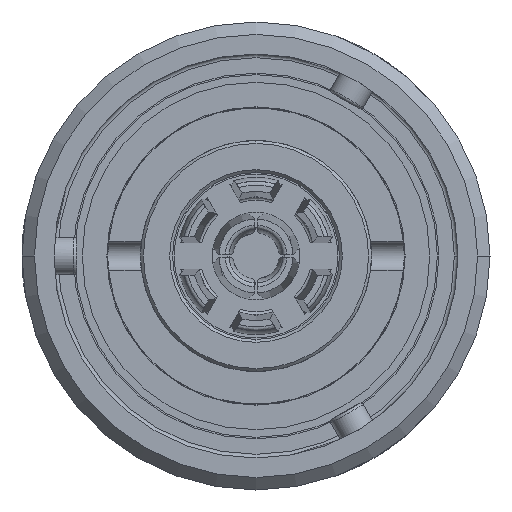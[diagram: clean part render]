
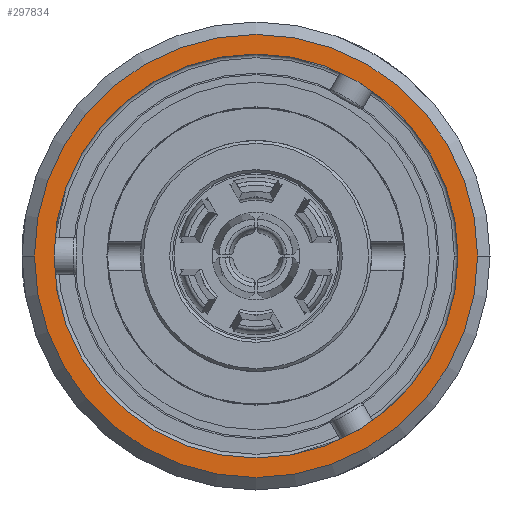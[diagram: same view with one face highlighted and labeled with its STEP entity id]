
A CAD part, left-side view. The second image highlights one B-rep face of the part: STEP entity #297834.
In plain terms, the highlighted planar face has unit normal (-1, 0, 0).
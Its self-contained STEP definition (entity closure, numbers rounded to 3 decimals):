
#85639=CARTESIAN_POINT('',(3.2,0.,0.));
#85640=DIRECTION('',(-1.,0.,0.));
#85641=DIRECTION('',(0.,1.,0.));
#85642=AXIS2_PLACEMENT_3D('',#85639,#85640,#85641);
#85652=CARTESIAN_POINT('',(3.2,0.,0.));
#85653=DIRECTION('',(1.,0.,0.));
#85654=DIRECTION('',(0.,1.,0.));
#85655=AXIS2_PLACEMENT_3D('',#85652,#85653,#85654);
#85657=CARTESIAN_POINT('',(3.2,0.,0.));
#85658=DIRECTION('',(1.,0.,0.));
#85659=DIRECTION('',(0.,1.,0.));
#85660=AXIS2_PLACEMENT_3D('',#85657,#85658,#85659);
#85662=CARTESIAN_POINT('',(3.2,0.,0.));
#85663=DIRECTION('',(-1.,0.,0.));
#85664=DIRECTION('',(0.,1.,0.));
#85665=AXIS2_PLACEMENT_3D('',#85662,#85663,#85664);
#94667=CARTESIAN_POINT('',(3.2,13.81,0.));
#94668=CARTESIAN_POINT('',(3.2,-13.81,0.));
#94669=VERTEX_POINT('',#94667);
#94670=VERTEX_POINT('',#94668);
#94697=CARTESIAN_POINT('',(3.2,15.15,0.));
#94699=VERTEX_POINT('',#94697);
#94701=CARTESIAN_POINT('',(3.2,-15.15,0.));
#94703=VERTEX_POINT('',#94701);
#297819=CARTESIAN_POINT('',(3.2,0.,0.));
#297820=DIRECTION('',(-1.,0.,0.));
#297821=DIRECTION('',(0.,-1.,0.));
#297822=AXIS2_PLACEMENT_3D('',#297819,#297820,#297821);
#297823=PLANE('505',#297822);
#297824=ORIENTED_EDGE('10581',*,*,#297784,.F.);
#297825=ORIENTED_EDGE('10582',*,*,#297807,.T.);
#297826=EDGE_LOOP('505',(#297824,#297825));
#297827=FACE_OUTER_BOUND('505',#297826,.F.);
#297829=ORIENTED_EDGE('10565',*,*,#297828,.F.);
#297831=ORIENTED_EDGE('10564',*,*,#297830,.T.);
#297832=EDGE_LOOP('505',(#297829,#297831));
#297833=FACE_BOUND('505',#297832,.F.);
#85643=CIRCLE('10581',#85642,15.15);
#85656=CIRCLE('10582',#85655,15.15);
#85661=CIRCLE('10565',#85660,13.81);
#85666=CIRCLE('10564',#85665,13.81);
#297784=EDGE_CURVE('10581',#94699,#94703,#85643,.T.);
#297807=EDGE_CURVE('10582',#94699,#94703,#85656,.T.);
#297828=EDGE_CURVE('10565',#94669,#94670,#85661,.T.);
#297830=EDGE_CURVE('10564',#94669,#94670,#85666,.T.);
#297834=ADVANCED_FACE('505',(#297827,#297833),#297823,.T.);
